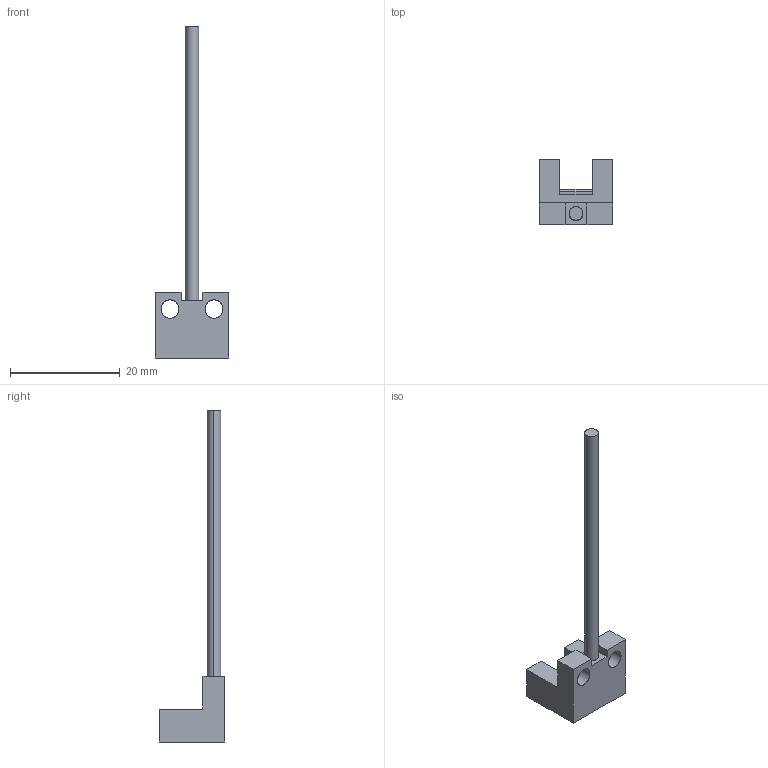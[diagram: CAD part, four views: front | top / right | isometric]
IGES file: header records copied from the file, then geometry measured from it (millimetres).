
Start section: SolidWorks IGES file using analytic representation for surfaces
Global section: file name: C:\catalog\pm-l25.IGS; native system: SolidWorks 2010; preprocessor: SolidWorks 2010; author: C0278; date: 150723.133810; units: millimetre
Bounding box: 13.4 x 12 x 60.5 mm (x, y, z)
Surface area: 1276.4 mm2 (no closed solid volume)
Topology: 0 solids, 0 shells, 43 faces, 408 edges, 408 vertices
Faces by surface type: bspline 37, revolution 6
